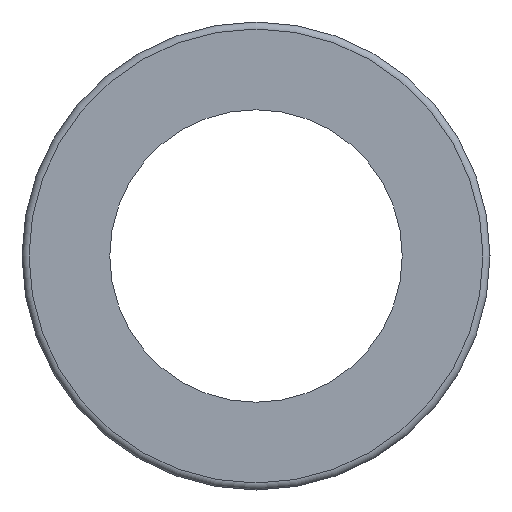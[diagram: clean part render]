
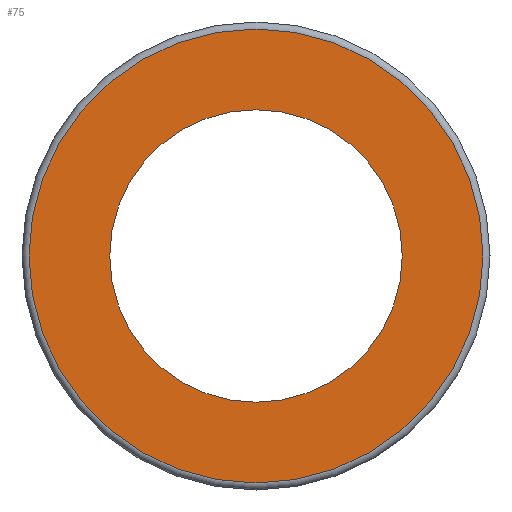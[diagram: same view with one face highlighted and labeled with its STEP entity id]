
A CAD part, left-side view. The second image highlights one B-rep face of the part: STEP entity #75.
In plain terms, the highlighted planar face has unit normal (-1, 0, 0).
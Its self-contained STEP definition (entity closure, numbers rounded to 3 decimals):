
#75=ADVANCED_FACE('',(#90,#91),#92,.T.);
#90=FACE_OUTER_BOUND('',#132,.T.);
#91=FACE_BOUND('',#133,.T.);
#92=PLANE('',#134);
#132=EDGE_LOOP('',(#174));
#133=EDGE_LOOP('',(#175));
#134=AXIS2_PLACEMENT_3D('',#176,#177,#178);
#174=ORIENTED_EDGE('',*,*,#244,.F.);
#175=ORIENTED_EDGE('',*,*,#245,.T.);
#176=CARTESIAN_POINT('',(67.999,15.95,0.0));
#177=DIRECTION('',(-1.0,0.0,0.0));
#178=DIRECTION('',(0.0,0.0,1.0));
#244=EDGE_CURVE('',#258,#258,#259,.T.);
#245=EDGE_CURVE('',#260,#260,#261,.T.);
#258=VERTEX_POINT('',#286);
#259=CIRCLE('',#287,19.4);
#260=VERTEX_POINT('',#288);
#261=CIRCLE('',#289,12.5);
#286=CARTESIAN_POINT('',(67.999,19.4,0.0));
#287=AXIS2_PLACEMENT_3D('',#314,#315,#316);
#288=CARTESIAN_POINT('',(67.999,12.5,0.0));
#289=AXIS2_PLACEMENT_3D('',#317,#318,#319);
#314=CARTESIAN_POINT('',(67.999,0.0,0.0));
#315=DIRECTION('',(1.0,0.0,0.0));
#316=DIRECTION('',(0.0,1.0,0.0));
#317=CARTESIAN_POINT('',(67.999,0.0,0.0));
#318=DIRECTION('',(1.0,0.0,0.0));
#319=DIRECTION('',(0.0,1.0,0.0));
